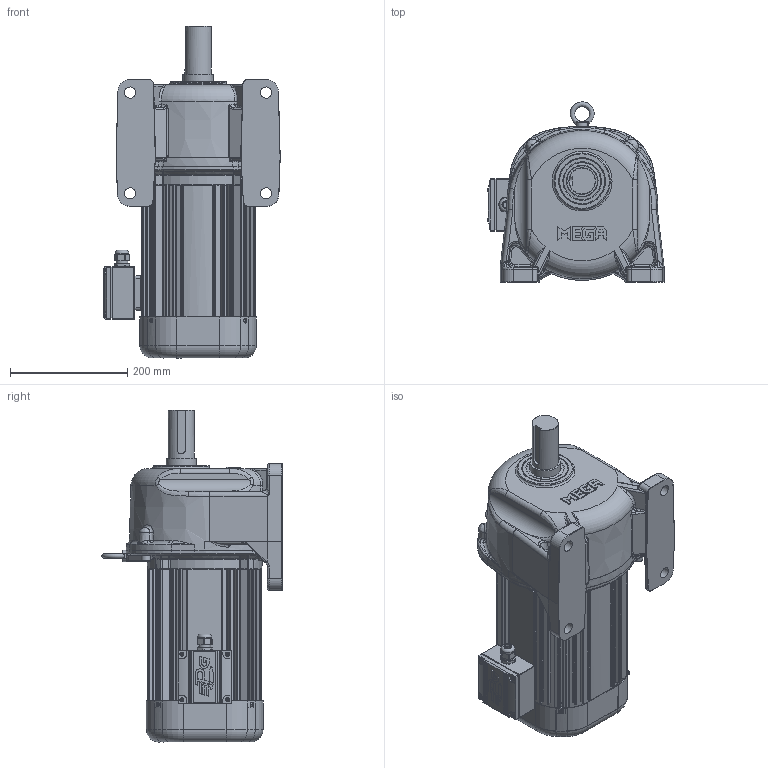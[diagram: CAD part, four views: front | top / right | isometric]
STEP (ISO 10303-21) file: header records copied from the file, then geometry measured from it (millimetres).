
FILE_DESCRIPTION(/* description */ (''),/* implementation_level */ '2;1');
FILE_NAME(/* name */ 'Z:\동력 3D 파일\PML172-(5~100)-PA(B)220[ ]L_(3D).stp',/* time_stamp */ '2021-11-18T11:06:33+09:00',/* author */ ('jaebok'),/* organization */ (''),/* preprocessor_version */ 'ST-DEVELOPER v18.1',/* originating_system */ 'Autodesk Inventor 2022',/* authorisation */ '');
FILE_SCHEMA (('AUTOMOTIVE_DESIGN { 1 0 10303 214 3 1 1 }'));
Length unit declared in the file: millimetre
Products named in the file (1): 부품1
Bounding box: 301 x 307.44 x 566.5 mm (x, y, z)
Volume: 5823905.3 mm3; surface area: 1356469.8 mm2
Topology: 2 solids, 32 shells, 3547 faces, 9031 edges, 5521 vertices
Faces by surface type: plane 1104, cylinder 948, bspline 886, torus 336, cone 220, sphere 53
Full cylindrical faces by diameter (mm): 3.25 x1, 3.5 x4, 3.6 x4, 4 x21, 5 x13, 6 x5, 6.8 x4, 7 x8, 8 x9, 8.4 x5, 8.8 x1, 9 x4, 10 x11, 11 x4, 12 x1, 12.5 x1, 15 x1, 16 x4, 19 x4, 20 x2, 21 x1, 23.5 x1, 23.6 x1, 25 x2, 31 x1, 36 x2, 45 x1, 48 x1, 50 x2, 52 x4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
Entity records: 139365 total; most frequent: CARTESIAN_POINT 55049, ORIENTED_EDGE 17814, DIRECTION 15567, EDGE_CURVE 8907, AXIS2_PLACEMENT_3D 6292, VERTEX_POINT 5521, EDGE_LOOP 3773, STYLED_ITEM 3549
